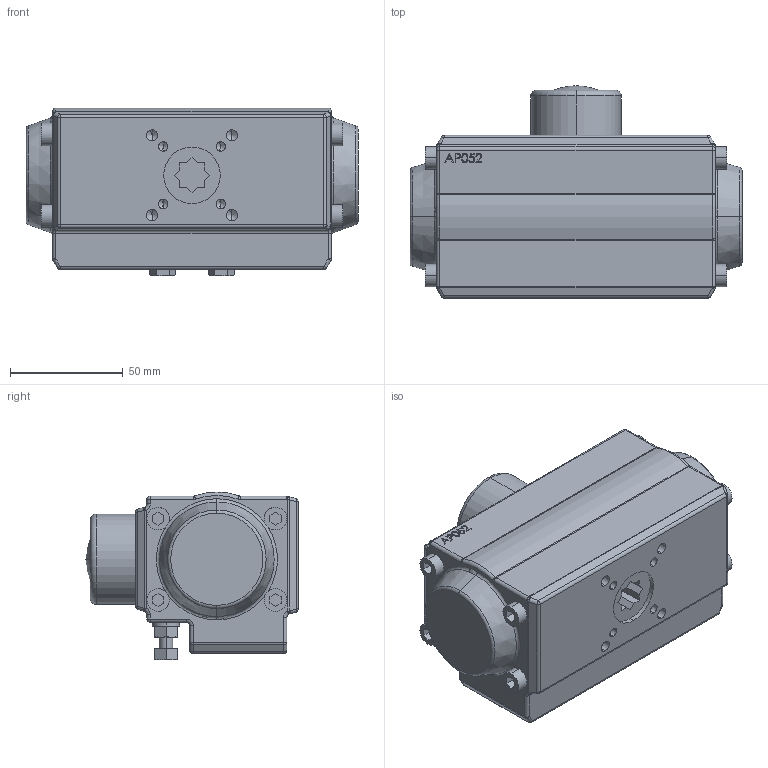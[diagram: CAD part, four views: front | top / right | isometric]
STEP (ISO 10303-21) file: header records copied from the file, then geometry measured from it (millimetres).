
FILE_DESCRIPTION (( 'STEP AP203' ), '1' );
FILE_NAME ('AP052.STEP', '2020-04-08T11:39:54', ( '' ), ( '' ), 'SwSTEP 2.0', 'SolidWorks 2017', '' );
FILE_SCHEMA (( 'CONFIG_CONTROL_DESIGN' ));
Length unit declared in the file: millimetre
Products named in the file (1): AP052
Bounding box: 147 x 94 x 74.31 mm (x, y, z)
Volume: 625117.2 mm3; surface area: 53997.1 mm2
Topology: 1 solids, 1 shells, 491 faces, 1187 edges, 703 vertices
Faces by surface type: plane 203, cylinder 120, cone 68, bspline 44, sphere 32, torus 24
Entity records: 16450 total; most frequent: CARTESIAN_POINT 5378, ORIENTED_EDGE 2278, DIRECTION 2237, EDGE_CURVE 1139, AXIS2_PLACEMENT_3D 794, VERTEX_POINT 703, LINE 649, VECTOR 649
